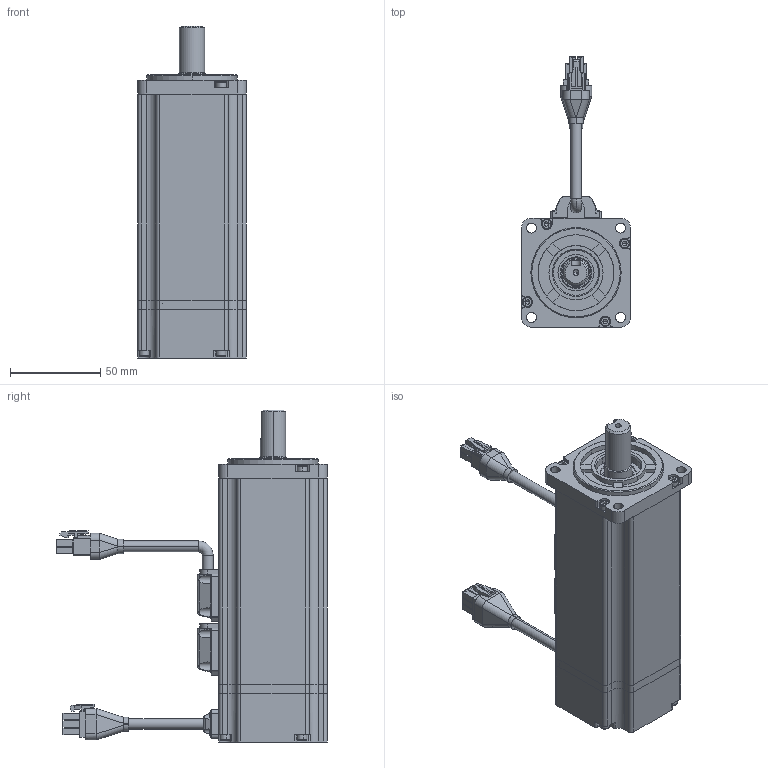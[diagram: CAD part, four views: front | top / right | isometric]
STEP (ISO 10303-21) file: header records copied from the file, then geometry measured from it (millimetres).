
FILE_DESCRIPTION (( 'STEP AP203' ), '1' );
FILE_NAME ('R60-400.STEP', '2019-08-23T05:52:12', ( '1' ), ( 'MideaGroup IT' ), 'SwSTEP 2.0', 'SolidWorks 2012', '' );
FILE_SCHEMA (( 'CONFIG_CONTROL_DESIGN' ));
Length unit declared in the file: millimetre
Products named in the file (26): R60-400; 雄薯盄揤裔郪璃; M3X28_GB_FASTENER_SCREWS_HSHCS M3X25-C; 雄薯盄傷赽裔; 雄薯盄; 雄薯盄傷赽; 雄薯盄躇猾菜; 雄薯盄揤裔; 毀嚏盄揤裔郪璃; 毀嚏盄傷赽揤裔; M2.5X5_GB_CROSS_SCREWS_TYPE3 M2.5X8-8-N; 晤鎢ん盄傷赽; 晤鎢ん盄揤裔躇猾; 晤鎢ん盄揤裔; 蛌赽郪璃-001; 6003; 6003_qiu; 6003_bq; 6003_nh; 6003_wq; 萇儂粣-001; 綴裔-001; 綴傷裔-001; ヶ傷裔-001; 儂褲-001
Assembly tree (56 placements, depth 4):
  R60-400
    儂褲-001
    ヶ傷裔-001
    綴傷裔-001
    綴裔-001
    蛌赽郪璃-001
      萇儂粣-001
      6003
        6003_wq
        6003_nh
        6003_bq
        6003_qiu  x11
    毀嚏盄揤裔郪璃
      晤鎢ん盄揤裔
      晤鎢ん盄揤裔躇猾
      晤鎢ん盄傷赽
      M2.5X5_GB_CROSS_SCREWS_TYPE3 M2.5X8-8-N  x4
      毀嚏盄傷赽揤裔
    雄薯盄揤裔郪璃
      雄薯盄揤裔
      雄薯盄躇猾菜
      雄薯盄傷赽
      雄薯盄
      M2.5X5_GB_CROSS_SCREWS_TYPE3 M2.5X8-8-N  x4
      雄薯盄傷赽裔
    M3X28_GB_FASTENER_SCREWS_HSHCS M3X25-C  x8
    雄薯盄揤裔郪璃
      雄薯盄揤裔
      雄薯盄躇猾菜
      雄薯盄
      M2.5X5_GB_CROSS_SCREWS_TYPE3 M2.5X8-8-N  x4
Bounding box: 60.2 x 150 x 184 mm (x, y, z)
Volume: 173225.8 mm3; surface area: 122339.4 mm2
Topology: 56 solids, 82 shells, 1821 faces, 4936 edges, 3258 vertices
Faces by surface type: plane 904, cylinder 704, cone 89, torus 56, sphere 46, bspline 22
Entity records: 46488 total; most frequent: CARTESIAN_POINT 11883, DIRECTION 6580, ORIENTED_EDGE 6245, EDGE_CURVE 3303, AXIS2_PLACEMENT_3D 2329, VERTEX_POINT 2198, LINE 1922, VECTOR 1922
